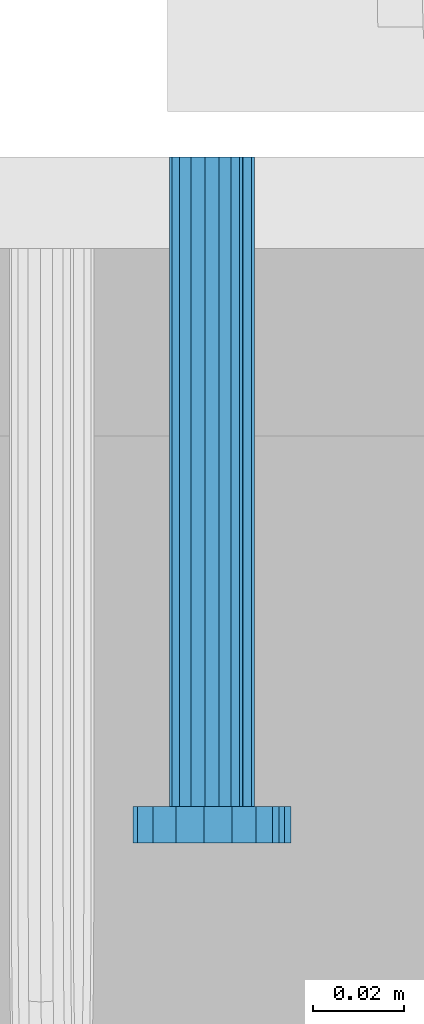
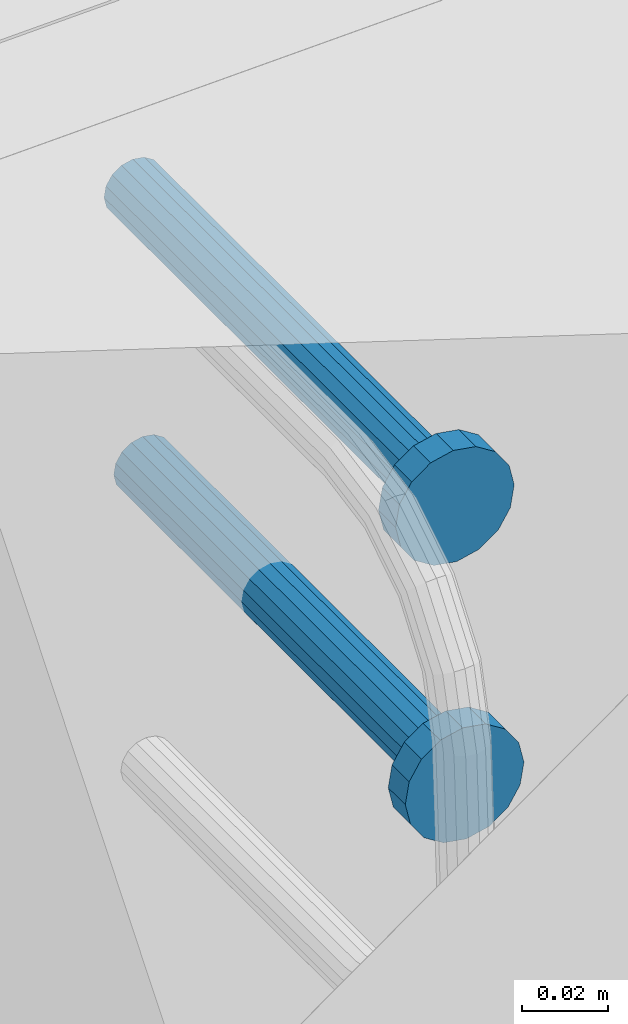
# One storey, part 86 of 476: 2 mechanical fasteners.
"""IFC2X3 building model written with IfcOpenShell, lengths in millimetres."""

import ifcopenshell
import ifcopenshell.guid

model = None  # the IFC model being written
_history = None  # IfcOwnerHistory: only IFC2X3 demands one
_inside = {}  # id of a spatial element -> (the spatial element, [elements in it])
_under = {}  # id of a project, library or spatial element -> (it, [spatial elements below it])
_declared = {}  # id of a project -> (the project, [libraries it declares])
_typed = {}  # id of a type object -> (the type object, [elements of that type])
_made_of = {}  # id of a material, layer set ... -> (it, [elements and type objects made of it])


def new_model(schema):
    """Start an empty IFC model of exactly this schema.

    Asked for "IFC4X3", IfcOpenShell would pick the latest addendum, in which some entities
    have other attributes; the version numbers below select the first issue.
    IFC2X3 requires an IfcOwnerHistory on every rooted entity: one is made here for all.
    """
    global model, _history
    if schema == "IFC4X3":
        model = ifcopenshell.file(schema_version=(4, 3, 0, 0))
    else:
        model = ifcopenshell.file(schema=schema)
    _inside.clear()
    _under.clear()
    _declared.clear()
    _typed.clear()
    _made_of.clear()
    _history = None
    if model.schema == "IFC2X3":
        org = make("IfcOrganization", Name="unknown")
        user = make(
            "IfcPersonAndOrganization",
            ThePerson=make("IfcPerson", FamilyName="unknown"),
            TheOrganization=org,
        )
        app = make(
            "IfcApplication",
            ApplicationDeveloper=org,
            Version="unknown",
            ApplicationFullName="unknown",
            ApplicationIdentifier="unknown",
        )
        _history = make(
            "IfcOwnerHistory",
            OwningUser=user,
            OwningApplication=app,
            ChangeAction="ADDED",
            CreationDate=0,
        )
    return model


def make(cls, **values):
    """One entity of the class cls with the attributes given. An attribute that is None is left unset."""
    return model.create_entity(
        cls, **{name: value for name, value in values.items() if value is not None}
    )


def entity(cls, *values):
    """Any entity or typed value of the class cls, its attributes in the order of the schema. None: left unset."""
    e = model.create_entity(cls)
    for i, value in enumerate(values):
        if value is not None:
            e[i] = value
    return e


def rooted(cls, **values):
    """An entity with a GlobalId (a new one), such as an element, a storey or a relation."""
    return make(cls, GlobalId=ifcopenshell.guid.new(), OwnerHistory=_history, **values)


def si_unit(unit_type, name, prefix=None):
    """IfcSIUnit, for example si_unit("LENGTHUNIT", "METRE", prefix="MILLI")."""
    return make("IfcSIUnit", UnitType=unit_type, Prefix=prefix, Name=name)


def converted_unit(unit_type, name, factor, base, dimensions=None, offset=None):
    """IfcConversionBasedUnit, such as the inch: factor (a typed value) times the base unit."""
    return make(
        "IfcConversionBasedUnit"
        if offset is None
        else "IfcConversionBasedUnitWithOffset",
        ConversionOffset=offset,
        Dimensions=None
        if dimensions is None
        else entity("IfcDimensionalExponents", *dimensions),
        UnitType=unit_type,
        Name=name,
        ConversionFactor=make(
            "IfcMeasureWithUnit", ValueComponent=factor, UnitComponent=base
        ),
    )


def assignment(units):
    """IfcUnitAssignment: the units of a project."""
    return None if units is None else make("IfcUnitAssignment", Units=units)


def point(xyz):
    """IfcCartesianPoint."""
    return None if xyz is None else make("IfcCartesianPoint", Coordinates=xyz)


def direction(xyz):
    """IfcDirection."""
    return None if xyz is None else make("IfcDirection", DirectionRatios=xyz)


def frame(location, z_axis=None, x_axis=None):
    """IfcAxis2Placement3D, a coordinate frame: its origin and axes. An axis left out is left unset."""
    return make(
        "IfcAxis2Placement3D",
        Location=point(location),
        Axis=direction(z_axis),
        RefDirection=direction(x_axis),
    )


def origin_with_axes():
    """The frame at (0, 0, 0) with the z axis (0, 0, 1) and the x axis (1, 0, 0) written out."""
    return frame((0.0, 0.0, 0.0), z_axis=(0.0, 0.0, 1.0), x_axis=(1.0, 0.0, 0.0))


def place(relative_to, where):
    """IfcLocalPlacement: puts the frame where relative to a parent placement (None: the world)."""
    return make(
        "IfcLocalPlacement", PlacementRelTo=relative_to, RelativePlacement=where
    )


def context(
    kind, dimensions, precision=None, world=None, true_north=None, identifier=None
):
    """IfcGeometricRepresentationContext, for example the 3D "Model" context."""
    return make(
        "IfcGeometricRepresentationContext",
        ContextIdentifier=identifier,
        ContextType=kind,
        CoordinateSpaceDimension=dimensions,
        Precision=precision,
        WorldCoordinateSystem=world,
        TrueNorth=true_north,
    )


def project(units=None, contexts=None):
    """IfcProject with its units and contexts."""
    return rooted(
        "IfcProject",
        Name="project",
        RepresentationContexts=contexts,
        UnitsInContext=assignment(units),
    )


def spatial(cls, under=None, at=None, **own):
    """A site, building, storey or space (cls), placed at a placement, below another one or the project."""
    s = rooted(cls, ObjectPlacement=at, **own)
    if under is not None:
        _under.setdefault(under.id(), (under, []))[1].append(s)
    return s


def faces_of(points, faces, orient=None, outer=None):
    """IfcFace entities. A face is a list of loops; a loop is a list of indices into points, from 0.

    orient and outer hold one flag for each loop. By default every Orientation is true, the
    first loop of a face is its IfcFaceOuterBound and the others are IfcFaceBound.
    """
    made = []
    for i, loops in enumerate(faces):
        bounds = []
        for j, loop in enumerate(loops):
            is_outer = j == 0 if outer is None else outer[i][j]
            bounds.append(
                make(
                    "IfcFaceOuterBound" if is_outer else "IfcFaceBound",
                    Bound=make("IfcPolyLoop", Polygon=[points[k] for k in loop]),
                    Orientation=True if orient is None else orient[i][j],
                )
            )
        made.append(make("IfcFace", Bounds=bounds))
    return made


def faceted_brep(points, faces, orient=None, outer=None, voids=None):
    """IfcFacetedBrep: a solid bounded by flat faces; with voids (closed shells), ...WithVoids."""
    shared = [point(p) for p in points]
    hull = make("IfcClosedShell", CfsFaces=faces_of(shared, faces, orient, outer))
    if voids is None:
        return make("IfcFacetedBrep", Outer=hull)
    return make(
        "IfcFacetedBrepWithVoids",
        Outer=hull,
        Voids=[
            make(cls, CfsFaces=faces_of(shared, fs, o, b)) for cls, fs, o, b in voids
        ],
    )


def shape(context_of_items, identifier, shape_type, items):
    """IfcShapeRepresentation: the items that make up one representation, for example the "Body"."""
    return make(
        "IfcShapeRepresentation",
        ContextOfItems=context_of_items,
        RepresentationIdentifier=identifier,
        RepresentationType=shape_type,
        Items=items,
    )


def made_of(thing, what):
    """Note that an element or type object is made of a material, layer set ...; save() writes the relation."""
    if what is not None:
        _made_of.setdefault(what.id(), (what, []))[1].append(thing)
    return thing


def element(
    cls,
    number,
    at=None,
    inside=None,
    cuts=None,
    type_object=None,
    material=None,
    context=None,
    identifier="Body",
    shape_type=None,
    held_by="IfcProductDefinitionShape",
    body=None,
    shapes=None,
    **own,
):
    """One element of the class cls, such as IfcWall. Its Tag is "e" and its number.

    at: its placement. inside: the storey or other place that contains it. cuts: it is an
    opening in that element (IfcRelVoidsElement). A single representation is given by context,
    identifier, shape_type and body (its items); several are given by shapes. held_by: the class
    of the entity that holds the representations. save() writes the other relations.
    """
    e = rooted(cls, Tag="e%d" % number, ObjectPlacement=at, **own)
    if body is not None:
        shapes = [shape(context, identifier, shape_type, body)]
    if shapes is not None:
        e.Representation = make(held_by, Representations=shapes)
    if inside is not None:
        _inside.setdefault(inside.id(), (inside, []))[1].append(e)
    if cuts is not None:
        rooted(
            "IfcRelVoidsElement", RelatingBuildingElement=cuts, RelatedOpeningElement=e
        )
    if type_object is not None:
        _typed.setdefault(type_object.id(), (type_object, []))[1].append(e)
    return made_of(e, material)


def aggregate(whole, parts):
    """IfcRelAggregates: a whole, such as a stair, and the parts it consists of."""
    return rooted("IfcRelAggregates", RelatingObject=whole, RelatedObjects=parts)


def save(model, path):
    """Write the relations noted so far, then the file.

    IfcRelAggregates (storeys below a building ...), IfcRelContainedInSpatialStructure (elements
    in a storey), IfcRelDefinesByType, IfcRelAssociatesMaterial and IfcRelDeclares: one each for
    every whole, place, type object, material and project.
    """
    for whole, parts in _under.values():
        aggregate(whole, parts)
    for where, things in _inside.values():
        rooted(
            "IfcRelContainedInSpatialStructure",
            RelatedElements=things,
            RelatingStructure=where,
        )
    for kind, things in _typed.values():
        rooted("IfcRelDefinesByType", RelatedObjects=things, RelatingType=kind)
    for what, things in _made_of.values():
        rooted("IfcRelAssociatesMaterial", RelatedObjects=things, RelatingMaterial=what)
    for by, libraries in _declared.values():
        rooted("IfcRelDeclares", RelatingContext=by, RelatedDefinitions=libraries)
    model.write(path)


model = new_model("IFC2X3")

# Units and contexts
model_context = context("Model", 3, precision=1e-09, world=origin_with_axes())
ifc_project = project(units=[si_unit("LENGTHUNIT", "METRE", prefix="MILLI"), si_unit("AREAUNIT", "SQUARE_METRE"), si_unit("VOLUMEUNIT", "CUBIC_METRE"), converted_unit("PLANEANGLEUNIT", "DEGREE", entity("IfcPlaneAngleMeasure", 0.01745329), si_unit("PLANEANGLEUNIT", "RADIAN"), dimensions=[0, 0, 0, 0, 0, 0, 0])], contexts=[model_context])

# Site, building, storey
site_placement = place(None, origin_with_axes())
site = spatial("IfcSite", under=ifc_project, at=site_placement, Name="mKR Teilneubau & Sanierung BA1 - Ostfildern", CompositionType="ELEMENT")
building_placement = place(site_placement, origin_with_axes())
building = spatial("IfcBuilding", under=site, at=building_placement, Name="Struktur 1", CompositionType="ELEMENT")
storey_placement = place(building_placement, origin_with_axes())
storey = spatial("IfcBuildingStorey", under=building, at=storey_placement, Name="Default Storey", CompositionType="ELEMENT", Elevation=0.0)

# Mechanical fasteners
mechanical_fastener_1_placement = place(None, origin_with_axes())
element("IfcMechanicalFastener", 1, at=mechanical_fastener_1_placement, inside=storey, ObjectType="-", NominalDiameter=16.0, NominalLength=150.0, context=model_context, shape_type="Brep", body=[
    faceted_brep([(8104.335894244, -23621.31640625, 5200.384139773), (8104.335894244, -23479.31640625, 5200.384139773), (8105.036555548, -23479.31640625, 5197.342348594), (8105.036555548, -23621.31640625, 5197.342348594), (8106.847925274, -23479.31640625, 5194.800231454), (8106.847925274, -23621.31640625, 5194.800231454), (8109.494238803, -23479.31640625, 5193.144802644), (8109.494238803, -23621.31640625, 5193.144802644), (8112.572618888, -23479.31640625, 5192.628086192), (8112.572618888, -23621.31640625, 5192.628086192), (8115.614410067, -23479.31640625, 5193.328747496), (8115.614410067, -23621.31640625, 5193.328747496), (8118.156527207, -23479.31640625, 5195.140117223), (8118.156527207, -23621.31640625, 5195.140117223), (8119.811956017, -23479.31640625, 5197.786430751), (8119.811956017, -23621.31640625, 5197.786430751), (8120.328672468, -23479.31640625, 5200.864810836), (8120.328672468, -23621.31640625, 5200.864810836), (8119.628011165, -23479.31640625, 5203.906602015), (8119.628011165, -23621.31640625, 5203.906602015), (8117.816641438, -23479.31640625, 5206.448719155), (8117.816641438, -23621.31640625, 5206.448719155), (8115.170327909, -23479.31640625, 5208.104147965), (8115.170327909, -23621.31640625, 5208.104147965), (8112.091947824, -23479.31640625, 5208.620864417), (8112.091947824, -23621.31640625, 5208.620864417), (8109.050156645, -23479.31640625, 5207.920203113), (8109.050156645, -23621.31640625, 5207.920203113), (8106.508039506, -23479.31640625, 5206.108833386), (8106.508039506, -23621.31640625, 5206.108833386), (8104.852610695, -23479.31640625, 5203.462519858), (8104.852610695, -23621.31640625, 5203.462519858)], [[[0, 1, 2, 3]], [[3, 2, 4, 5]], [[5, 4, 6, 7]], [[7, 6, 8, 9]], [[9, 8, 10, 11]], [[11, 10, 12, 13]], [[13, 12, 14, 15]], [[15, 14, 16, 17]], [[17, 16, 18, 19]], [[19, 18, 20, 21]], [[21, 20, 22, 23]], [[23, 22, 24, 25]], [[25, 24, 26, 27]], [[27, 26, 28, 29]], [[29, 28, 30, 31]], [[31, 30, 1, 0]], [[0, 3, 5, 7, 9, 11, 13, 15, 17, 19, 21, 23, 25, 27, 29, 31]], [[1, 30, 28, 26, 24, 22, 20, 18, 16, 14, 12, 10, 8, 6, 4, 2]]]),
    faceted_brep([(8096.339505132, -23629.31640625, 5200.143804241), (8096.339505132, -23621.31640625, 5200.143804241), (8097.740827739, -23621.31640625, 5194.060221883), (8097.740827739, -23629.31640625, 5194.060221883), (8101.363567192, -23621.31640625, 5188.975987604), (8101.363567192, -23629.31640625, 5188.975987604), (8106.65619425, -23621.31640625, 5185.665129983), (8106.65619425, -23629.31640625, 5185.665129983), (8112.81295442, -23621.31640625, 5184.63169708), (8112.81295442, -23629.31640625, 5184.63169708), (8118.896536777, -23621.31640625, 5186.033019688), (8118.896536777, -23629.31640625, 5186.033019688), (8123.980771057, -23621.31640625, 5189.655759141), (8123.980771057, -23629.31640625, 5189.655759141), (8127.291628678, -23621.31640625, 5194.948386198), (8127.291628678, -23629.31640625, 5194.948386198), (8128.32506158, -23621.31640625, 5201.105146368), (8128.32506158, -23629.31640625, 5201.105146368), (8126.923738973, -23621.31640625, 5207.188728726), (8126.923738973, -23629.31640625, 5207.188728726), (8123.30099952, -23621.31640625, 5212.272963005), (8123.30099952, -23629.31640625, 5212.272963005), (8118.008372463, -23621.31640625, 5215.583820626), (8118.008372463, -23629.31640625, 5215.583820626), (8111.851612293, -23621.31640625, 5216.617253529), (8111.851612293, -23629.31640625, 5216.617253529), (8105.768029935, -23621.31640625, 5215.215930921), (8105.768029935, -23629.31640625, 5215.215930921), (8100.683795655, -23621.31640625, 5211.593191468), (8100.683795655, -23629.31640625, 5211.593191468), (8097.372938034, -23621.31640625, 5206.300564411), (8097.372938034, -23629.31640625, 5206.300564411)], [[[0, 1, 2, 3]], [[3, 2, 4, 5]], [[5, 4, 6, 7]], [[7, 6, 8, 9]], [[9, 8, 10, 11]], [[11, 10, 12, 13]], [[13, 12, 14, 15]], [[15, 14, 16, 17]], [[17, 16, 18, 19]], [[19, 18, 20, 21]], [[21, 20, 22, 23]], [[23, 22, 24, 25]], [[25, 24, 26, 27]], [[27, 26, 28, 29]], [[29, 28, 30, 31]], [[31, 30, 1, 0]], [[0, 3, 5, 7, 9, 11, 13, 15, 17, 19, 21, 23, 25, 27, 29, 31]], [[1, 30, 28, 26, 24, 22, 20, 18, 16, 14, 12, 10, 8, 6, 4, 2]]]),
])
mechanical_fastener_2_placement = place(None, origin_with_axes())
element("IfcMechanicalFastener", 2, at=mechanical_fastener_2_placement, inside=storey, ObjectType="-", NominalDiameter=16.0, NominalLength=150.0, context=model_context, shape_type="Brep", body=[
    faceted_brep([(8106.953169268, -23621.31640625, 5120.426678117), (8106.953169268, -23479.31640625, 5120.426678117), (8107.653830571, -23479.31640625, 5117.384886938), (8107.653830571, -23621.31640625, 5117.384886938), (8109.465200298, -23479.31640625, 5114.842769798), (8109.465200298, -23621.31640625, 5114.842769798), (8112.111513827, -23479.31640625, 5113.187340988), (8112.111513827, -23621.31640625, 5113.187340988), (8115.189893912, -23479.31640625, 5112.670624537), (8115.189893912, -23621.31640625, 5112.670624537), (8118.231685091, -23479.31640625, 5113.37128584), (8118.231685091, -23621.31640625, 5113.37128584), (8120.77380223, -23479.31640625, 5115.182655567), (8120.77380223, -23621.31640625, 5115.182655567), (8122.429231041, -23479.31640625, 5117.828969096), (8122.429231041, -23621.31640625, 5117.828969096), (8122.945947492, -23479.31640625, 5120.907349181), (8122.945947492, -23621.31640625, 5120.907349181), (8122.245286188, -23479.31640625, 5123.949140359), (8122.245286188, -23621.31640625, 5123.949140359), (8120.433916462, -23479.31640625, 5126.491257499), (8120.433916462, -23621.31640625, 5126.491257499), (8117.787602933, -23479.31640625, 5128.14668631), (8117.787602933, -23621.31640625, 5128.14668631), (8114.709222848, -23479.31640625, 5128.663402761), (8114.709222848, -23621.31640625, 5128.663402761), (8111.667431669, -23479.31640625, 5127.962741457), (8111.667431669, -23621.31640625, 5127.962741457), (8109.125314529, -23479.31640625, 5126.151371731), (8109.125314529, -23621.31640625, 5126.151371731), (8107.469885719, -23479.31640625, 5123.505058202), (8107.469885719, -23621.31640625, 5123.505058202)], [[[0, 1, 2, 3]], [[3, 2, 4, 5]], [[5, 4, 6, 7]], [[7, 6, 8, 9]], [[9, 8, 10, 11]], [[11, 10, 12, 13]], [[13, 12, 14, 15]], [[15, 14, 16, 17]], [[17, 16, 18, 19]], [[19, 18, 20, 21]], [[21, 20, 22, 23]], [[23, 22, 24, 25]], [[25, 24, 26, 27]], [[27, 26, 28, 29]], [[29, 28, 30, 31]], [[31, 30, 1, 0]], [[0, 3, 5, 7, 9, 11, 13, 15, 17, 19, 21, 23, 25, 27, 29, 31]], [[1, 30, 28, 26, 24, 22, 20, 18, 16, 14, 12, 10, 8, 6, 4, 2]]]),
    faceted_brep([(8098.956780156, -23629.31640625, 5120.186342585), (8098.956780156, -23621.31640625, 5120.186342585), (8100.358102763, -23621.31640625, 5114.102760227), (8100.358102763, -23629.31640625, 5114.102760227), (8103.980842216, -23621.31640625, 5109.018525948), (8103.980842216, -23629.31640625, 5109.018525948), (8109.273469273, -23621.31640625, 5105.707668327), (8109.273469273, -23629.31640625, 5105.707668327), (8115.430229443, -23621.31640625, 5104.674235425), (8115.430229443, -23629.31640625, 5104.674235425), (8121.513811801, -23621.31640625, 5106.075558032), (8121.513811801, -23629.31640625, 5106.075558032), (8126.598046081, -23621.31640625, 5109.698297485), (8126.598046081, -23629.31640625, 5109.698297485), (8129.908903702, -23621.31640625, 5114.990924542), (8129.908903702, -23629.31640625, 5114.990924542), (8130.942336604, -23621.31640625, 5121.147684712), (8130.942336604, -23629.31640625, 5121.147684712), (8129.541013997, -23621.31640625, 5127.23126707), (8129.541013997, -23629.31640625, 5127.23126707), (8125.918274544, -23621.31640625, 5132.31550135), (8125.918274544, -23629.31640625, 5132.31550135), (8120.625647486, -23621.31640625, 5135.626358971), (8120.625647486, -23629.31640625, 5135.626358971), (8114.468887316, -23621.31640625, 5136.659791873), (8114.468887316, -23629.31640625, 5136.659791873), (8108.385304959, -23621.31640625, 5135.258469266), (8108.385304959, -23629.31640625, 5135.258469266), (8103.301070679, -23621.31640625, 5131.635729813), (8103.301070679, -23629.31640625, 5131.635729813), (8099.990213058, -23621.31640625, 5126.343102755), (8099.990213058, -23629.31640625, 5126.343102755)], [[[0, 1, 2, 3]], [[3, 2, 4, 5]], [[5, 4, 6, 7]], [[7, 6, 8, 9]], [[9, 8, 10, 11]], [[11, 10, 12, 13]], [[13, 12, 14, 15]], [[15, 14, 16, 17]], [[17, 16, 18, 19]], [[19, 18, 20, 21]], [[21, 20, 22, 23]], [[23, 22, 24, 25]], [[25, 24, 26, 27]], [[27, 26, 28, 29]], [[29, 28, 30, 31]], [[31, 30, 1, 0]], [[0, 3, 5, 7, 9, 11, 13, 15, 17, 19, 21, 23, 25, 27, 29, 31]], [[1, 30, 28, 26, 24, 22, 20, 18, 16, 14, 12, 10, 8, 6, 4, 2]]]),
])

save(model, "model.ifc")
